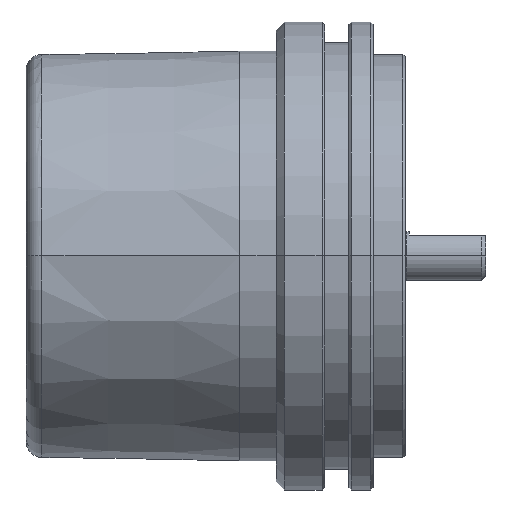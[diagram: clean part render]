
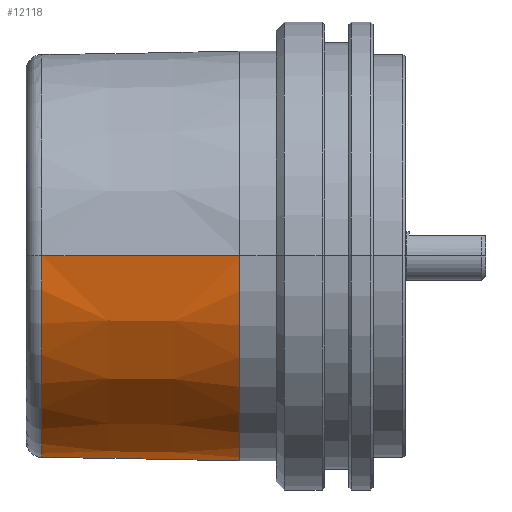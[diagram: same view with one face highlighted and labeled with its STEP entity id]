
A CAD part, top view. The second image highlights one B-rep face of the part: STEP entity #12118.
In plain terms, the highlighted conical face has half-angle 1 degrees and reference radius 25.4 mm.
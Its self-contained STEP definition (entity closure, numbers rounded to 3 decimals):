
#6149 = CARTESIAN_POINT ( 'NONE',  ( -19., -16.728, -18.542 ) ) ;
#6150 = CARTESIAN_POINT ( 'NONE',  ( -11.501, -16.586, -18.846 ) ) ;
#6151 = CARTESIAN_POINT ( 'NONE',  ( -4.001, -16.45, -19.137 ) ) ;
#6152 = CARTESIAN_POINT ( 'NONE',  ( 3.5, -16.319, -19.418 ) ) ;
#6153 = CARTESIAN_POINT ( 'NONE',  ( -19., -16.728, -18.542 ) ) ;
#6154 = B_SPLINE_CURVE_WITH_KNOTS ( 'NONE', 3,
 ( #6152, #6151, #6150, #6149 ),
 .UNSPECIFIED., .F., .F.,
 ( 4, 4 ),
 ( 0.002, 0.025 ),
 .UNSPECIFIED. ) ;
#6161 = CARTESIAN_POINT ( 'NONE',  ( 3.5, -16.319, -19.418 ) ) ;
#6169 = CARTESIAN_POINT ( 'NONE',  ( 5.5, -12.989, -21.828 ) ) ;
#6170 = DIRECTION ( 'NONE',  ( 0., 0., -1. ) ) ;
#6171 = DIRECTION ( 'NONE',  ( 1., 0., 0. ) ) ;
#6172 = CARTESIAN_POINT ( 'NONE',  ( -19.035, 0., 0. ) ) ;
#6173 = AXIS2_PLACEMENT_3D ( 'NONE', #6172, #6171, #6170 ) ;
#6174 = CIRCLE ( 'NONE', #6173, 24.972 ) ;
#6178 = CARTESIAN_POINT ( 'NONE',  ( -19., -16.728, -18.542 ) ) ;
#6179 = CARTESIAN_POINT ( 'NONE',  ( -19.012, -16.728, -18.541 ) ) ;
#6180 = CARTESIAN_POINT ( 'NONE',  ( -19.023, -16.728, -18.541 ) ) ;
#6181 = CARTESIAN_POINT ( 'NONE',  ( -19.035, -16.728, -18.541 ) ) ;
#6182 = CARTESIAN_POINT ( 'NONE',  ( -19.035, -16.728, -18.541 ) ) ;
#6183 = B_SPLINE_CURVE_WITH_KNOTS ( 'NONE', 3,
 ( #6181, #6180, #6179, #6178 ),
 .UNSPECIFIED., .F., .F.,
 ( 4, 4 ),
 ( 0., 0. ),
 .UNSPECIFIED. ) ;
#6207 = CARTESIAN_POINT ( 'NONE',  ( 5.5, -12.989, -21.828 ) ) ;
#6208 = CARTESIAN_POINT ( 'NONE',  ( 5.5, -13.341, -21.618 ) ) ;
#6209 = CARTESIAN_POINT ( 'NONE',  ( 5.461, -13.682, -21.403 ) ) ;
#6210 = CARTESIAN_POINT ( 'NONE',  ( 5.317, -14.347, -20.96 ) ) ;
#6211 = CARTESIAN_POINT ( 'NONE',  ( 5.21, -14.672, -20.731 ) ) ;
#6212 = CARTESIAN_POINT ( 'NONE',  ( 4.995, -15.13, -20.392 ) ) ;
#6213 = CARTESIAN_POINT ( 'NONE',  ( 4.914, -15.278, -20.28 ) ) ;
#6214 = CARTESIAN_POINT ( 'NONE',  ( 4.727, -15.562, -20.058 ) ) ;
#6215 = CARTESIAN_POINT ( 'NONE',  ( 4.62, -15.701, -19.947 ) ) ;
#6216 = CARTESIAN_POINT ( 'NONE',  ( 4.436, -15.89, -19.792 ) ) ;
#6217 = CARTESIAN_POINT ( 'NONE',  ( 4.37, -15.95, -19.742 ) ) ;
#6218 = CARTESIAN_POINT ( 'NONE',  ( 4.228, -16.062, -19.648 ) ) ;
#6219 = CARTESIAN_POINT ( 'NONE',  ( 4.151, -16.115, -19.603 ) ) ;
#6220 = CARTESIAN_POINT ( 'NONE',  ( 3.902, -16.252, -19.484 ) ) ;
#6221 = CARTESIAN_POINT ( 'NONE',  ( 3.708, -16.315, -19.426 ) ) ;
#6222 = CARTESIAN_POINT ( 'NONE',  ( 3.5, -16.319, -19.418 ) ) ;
#6223 = DIRECTION ( 'NONE',  ( 0., 0., -1. ) ) ;
#6224 = DIRECTION ( 'NONE',  ( -1., 0., 0. ) ) ;
#6225 = AXIS2_PLACEMENT_3D ( 'NONE', #6227, #6224, #6223 ) ;
#6226 = CIRCLE ( 'NONE', #6225, 25.4 ) ;
#6227 = CARTESIAN_POINT ( 'NONE',  ( 5.5, 0., 0. ) ) ;
#6228 = B_SPLINE_CURVE_WITH_KNOTS ( 'NONE', 3,
 ( #6222, #6221, #6220, #6219, #6218, #6217, #6216, #6215, #6214, #6213, #6212, #6211, #6210, #6209, #6208, #6207 ),
 .UNSPECIFIED., .F., .F.,
 ( 4, 2, 2, 2, 2, 2, 2, 4 ),
 ( 0., 0.001, 0.001, 0.001, 0.002, 0.002, 0.004, 0.005 ),
 .UNSPECIFIED. ) ;
#6234 = FACE_OUTER_BOUND ( 'NONE', #12088, .T. ) ;
#6279 = DIRECTION ( 'NONE',  ( 0., 0., 1. ) ) ;
#6280 = DIRECTION ( 'NONE',  ( 1., 0., 0. ) ) ;
#6281 = AXIS2_PLACEMENT_3D ( 'NONE', #6284, #6280, #6279 ) ;
#6282 = CONICAL_SURFACE ( 'NONE', #6281, 25.4, 0.017 ) ;
#6284 = CARTESIAN_POINT ( 'NONE',  ( 5.5, 0., 0. ) ) ;
#6426 = CARTESIAN_POINT ( 'NONE',  ( -19.035, 0., 24.972 ) ) ;
#7076 = VERTEX_POINT ( 'NONE', #12853 ) ;
#7080 = EDGE_CURVE ( 'NONE', #12181, #7076, #12843, .T. ) ;
#12081 = ORIENTED_EDGE ( 'NONE', *, *, #12093, .T. ) ;
#12083 = VERTEX_POINT ( 'NONE', #6161 ) ;
#12084 = EDGE_CURVE ( 'NONE', #12083, #12086, #6154, .T. ) ;
#12086 = VERTEX_POINT ( 'NONE', #6153 ) ;
#12087 = ORIENTED_EDGE ( 'NONE', *, *, #12084, .F. ) ;
#12088 = EDGE_LOOP ( 'NONE', ( #12101, #12100, #12081, #12087, #12107, #12105 ) ) ;
#12093 = EDGE_CURVE ( 'NONE', #12094, #12086, #6183, .T. ) ;
#12094 = VERTEX_POINT ( 'NONE', #6182 ) ;
#12096 = EDGE_CURVE ( 'NONE', #12181, #12094, #6174, .T. ) ;
#12098 = VERTEX_POINT ( 'NONE', #6169 ) ;
#12100 = ORIENTED_EDGE ( 'NONE', *, *, #12096, .T. ) ;
#12101 = ORIENTED_EDGE ( 'NONE', *, *, #7080, .F. ) ;
#12102 = EDGE_CURVE ( 'NONE', #12083, #12098, #6228, .T. ) ;
#12104 = EDGE_CURVE ( 'NONE', #12098, #7076, #6226, .T. ) ;
#12105 = ORIENTED_EDGE ( 'NONE', *, *, #12104, .T. ) ;
#12107 = ORIENTED_EDGE ( 'NONE', *, *, #12102, .T. ) ;
#12118 = ADVANCED_FACE ( 'NONE', ( #6234 ), #6282, .T. ) ;
#12181 = VERTEX_POINT ( 'NONE', #6426 ) ;
#12835 = DIRECTION ( 'NONE',  ( 1., 0., 0.017 ) ) ;
#12836 = VECTOR ( 'NONE', #12835, 1000. ) ;
#12837 = CARTESIAN_POINT ( 'NONE',  ( 5.5, 0., 25.4 ) ) ;
#12843 = LINE ( 'NONE', #12837, #12836 ) ;
#12853 = CARTESIAN_POINT ( 'NONE',  ( 5.5, 0., 25.4 ) ) ;
